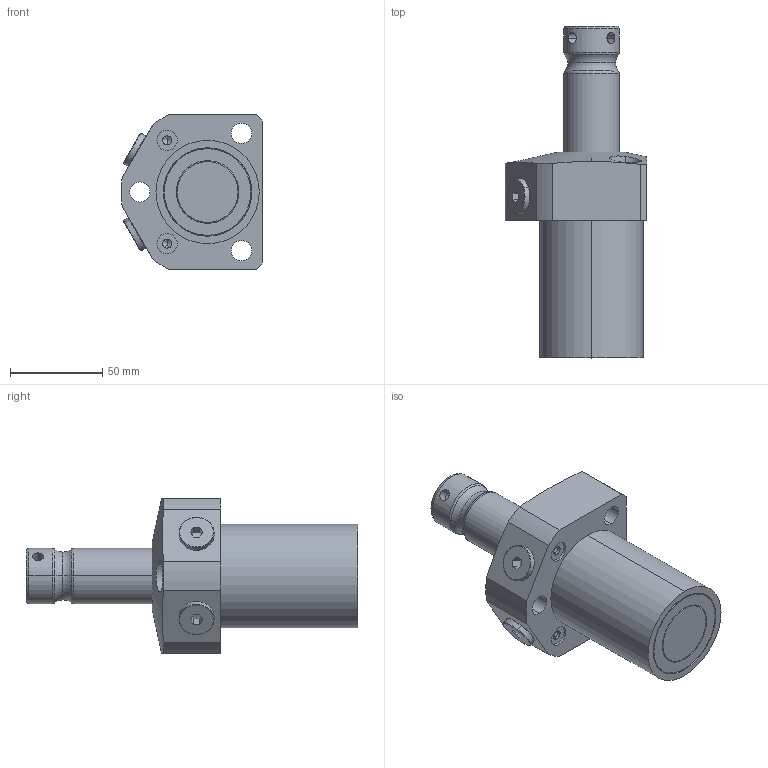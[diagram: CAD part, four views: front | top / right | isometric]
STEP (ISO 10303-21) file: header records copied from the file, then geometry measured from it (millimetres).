
FILE_DESCRIPTION (( 'STEP AP203' ), '1' );
FILE_NAME ('232001-CL.STEP', '2019-06-29T08:10:18', ( '微软用户' ), ( '微软中国' ), 'SwSTEP 2.0', 'SolidWorks 2014', '' );
FILE_SCHEMA (( 'CONFIG_CONTROL_DESIGN' ));
Length unit declared in the file: millimetre
Products named in the file (5): 232001-CL; 葩璃 232001.02A^232001-CL; 葩璃 4BN-04WD^232001-CL; 葩璃 232001.01^232001-CL; 葩璃 232001.04^232001-CL
Assembly tree (5 placements, depth 2):
  232001-CL
    葩璃 232001.02A^232001-CL
    葩璃 4BN-04WD^232001-CL  x2
    葩璃 232001.01^232001-CL
    葩璃 232001.04^232001-CL
Bounding box: 76.93 x 180 x 84 mm (x, y, z)
Volume: 444411.1 mm3; surface area: 56178.8 mm2
Topology: 5 solids, 5 shells, 137 faces, 292 edges, 182 vertices
Faces by surface type: cylinder 55, plane 48, cone 18, torus 16
Entity records: 4064 total; most frequent: CARTESIAN_POINT 973, DIRECTION 589, ORIENTED_EDGE 480, AXIS2_PLACEMENT_3D 246, EDGE_CURVE 240, VERTEX_POINT 152, EDGE_LOOP 138, CIRCLE 124
